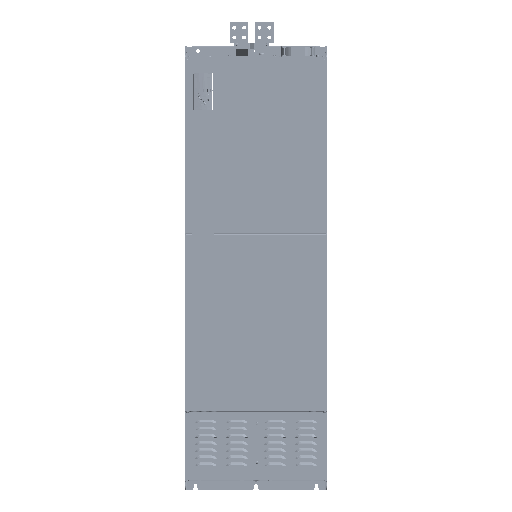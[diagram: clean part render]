
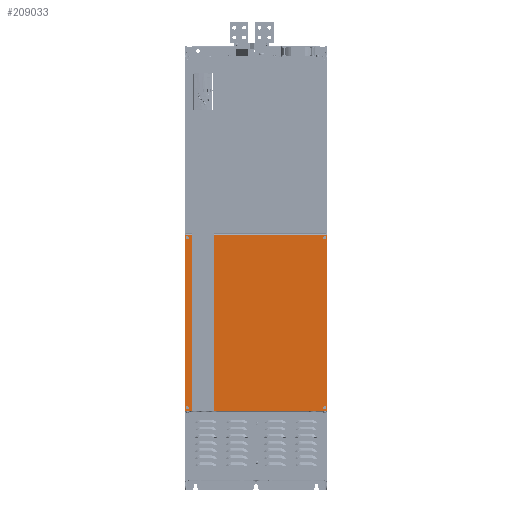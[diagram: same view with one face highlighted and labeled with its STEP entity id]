
A CAD part, top view. The second image highlights one B-rep face of the part: STEP entity #209033.
In plain terms, the highlighted planar face has unit normal (0, 0, 1).
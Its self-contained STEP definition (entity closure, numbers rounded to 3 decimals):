
#207611=CARTESIAN_POINT('',(250.35,626.75,0.));
#207612=DIRECTION('',(0.,0.,-1.));
#207613=DIRECTION('',(1.,0.,0.));
#207614=AXIS2_PLACEMENT_3D('',#207611,#207612,#207613);
#207619=DIRECTION('',(0.,1.,0.));
#207620=VECTOR('',#207619,626.75);
#207621=CARTESIAN_POINT('',(-250.6,0.,0.));
#207622=LINE('',#207621,#207620);
#207626=CARTESIAN_POINT('',(-250.35,626.75,0.));
#207627=DIRECTION('',(0.,0.,1.));
#207628=DIRECTION('',(-1.,0.,0.));
#207629=AXIS2_PLACEMENT_3D('',#207626,#207627,#207628);
#207634=CARTESIAN_POINT('',(244.6,616.5,0.));
#207635=DIRECTION('',(0.,0.,1.));
#207636=DIRECTION('',(-1.,0.,0.));
#207637=AXIS2_PLACEMENT_3D('',#207634,#207635,#207636);
#207642=CARTESIAN_POINT('',(244.6,616.5,0.));
#207643=DIRECTION('',(0.,0.,1.));
#207644=DIRECTION('',(1.,0.,0.));
#207645=AXIS2_PLACEMENT_3D('',#207642,#207643,#207644);
#207650=CARTESIAN_POINT('',(-244.6,616.5,0.));
#207651=DIRECTION('',(0.,0.,1.));
#207652=DIRECTION('',(-1.,0.,0.));
#207653=AXIS2_PLACEMENT_3D('',#207650,#207651,#207652);
#207658=CARTESIAN_POINT('',(-244.6,616.5,0.));
#207659=DIRECTION('',(0.,0.,1.));
#207660=DIRECTION('',(1.,0.,0.));
#207661=AXIS2_PLACEMENT_3D('',#207658,#207659,#207660);
#207666=CARTESIAN_POINT('',(-244.6,13.,0.));
#207667=DIRECTION('',(0.,0.,1.));
#207668=DIRECTION('',(-1.,0.,0.));
#207669=AXIS2_PLACEMENT_3D('',#207666,#207667,#207668);
#207674=CARTESIAN_POINT('',(-244.6,13.,0.));
#207675=DIRECTION('',(0.,0.,1.));
#207676=DIRECTION('',(1.,0.,0.));
#207677=AXIS2_PLACEMENT_3D('',#207674,#207675,#207676);
#207682=CARTESIAN_POINT('',(244.6,13.,0.));
#207683=DIRECTION('',(0.,0.,1.));
#207684=DIRECTION('',(-1.,0.,0.));
#207685=AXIS2_PLACEMENT_3D('',#207682,#207683,#207684);
#207690=CARTESIAN_POINT('',(244.6,13.,0.));
#207691=DIRECTION('',(0.,0.,1.));
#207692=DIRECTION('',(1.,0.,0.));
#207693=AXIS2_PLACEMENT_3D('',#207690,#207691,#207692);
#207698=DIRECTION('',(0.,-1.,0.));
#207699=VECTOR('',#207698,7.);
#207700=CARTESIAN_POINT('',(-228.85,27.,0.));
#207701=LINE('',#207700,#207699);
#207705=DIRECTION('',(1.,0.,0.));
#207706=VECTOR('',#207705,7.);
#207707=CARTESIAN_POINT('',(-228.85,20.,0.));
#207708=LINE('',#207707,#207706);
#207712=DIRECTION('',(0.,1.,0.));
#207713=VECTOR('',#207712,1.);
#207714=CARTESIAN_POINT('',(-221.85,20.,0.));
#207715=LINE('',#207714,#207713);
#207719=DIRECTION('',(-1.,0.,0.));
#207720=VECTOR('',#207719,6.);
#207721=CARTESIAN_POINT('',(-221.85,21.,0.));
#207722=LINE('',#207721,#207720);
#207726=DIRECTION('',(0.,1.,0.));
#207727=VECTOR('',#207726,6.);
#207728=CARTESIAN_POINT('',(-227.85,21.,0.));
#207729=LINE('',#207728,#207727);
#207733=DIRECTION('',(-1.,0.,0.));
#207734=VECTOR('',#207733,1.);
#207735=CARTESIAN_POINT('',(-227.85,27.,0.));
#207736=LINE('',#207735,#207734);
#207740=DIRECTION('',(-1.,0.,0.));
#207741=VECTOR('',#207740,7.);
#207742=CARTESIAN_POINT('',(-221.85,609.5,0.));
#207743=LINE('',#207742,#207741);
#207747=DIRECTION('',(0.,-1.,0.));
#207748=VECTOR('',#207747,7.);
#207749=CARTESIAN_POINT('',(-228.85,609.5,0.));
#207750=LINE('',#207749,#207748);
#207754=DIRECTION('',(1.,0.,0.));
#207755=VECTOR('',#207754,1.);
#207756=CARTESIAN_POINT('',(-228.85,602.5,0.));
#207757=LINE('',#207756,#207755);
#207761=DIRECTION('',(0.,1.,0.));
#207762=VECTOR('',#207761,6.);
#207763=CARTESIAN_POINT('',(-227.85,602.5,0.));
#207764=LINE('',#207763,#207762);
#207768=DIRECTION('',(1.,0.,0.));
#207769=VECTOR('',#207768,6.);
#207770=CARTESIAN_POINT('',(-227.85,608.5,0.));
#207771=LINE('',#207770,#207769);
#207775=DIRECTION('',(0.,1.,0.));
#207776=VECTOR('',#207775,1.);
#207777=CARTESIAN_POINT('',(-221.85,608.5,0.));
#207778=LINE('',#207777,#207776);
#207782=DIRECTION('',(-1.,0.,0.));
#207783=VECTOR('',#207782,500.7);
#207784=CARTESIAN_POINT('',(250.35,626.5,0.));
#207785=LINE('',#207784,#207783);
#208262=DIRECTION('',(0.,1.,0.));
#208263=VECTOR('',#208262,626.75);
#208264=CARTESIAN_POINT('',(250.6,0.,0.));
#208265=LINE('',#208264,#208263);
#208422=DIRECTION('',(1.,0.,0.));
#208423=VECTOR('',#208422,501.2);
#208424=CARTESIAN_POINT('',(-250.6,0.,0.));
#208425=LINE('',#208424,#208423);
#208668=CARTESIAN_POINT('',(-250.6,0.,0.));
#208670=VERTEX_POINT('',#208668);
#208671=CARTESIAN_POINT('',(250.6,0.,0.));
#208672=VERTEX_POINT('',#208671);
#208703=CARTESIAN_POINT('',(-228.85,27.,0.));
#208704=VERTEX_POINT('',#208703);
#208705=CARTESIAN_POINT('',(-228.85,20.,0.));
#208706=VERTEX_POINT('',#208705);
#208707=CARTESIAN_POINT('',(-221.85,20.,0.));
#208708=VERTEX_POINT('',#208707);
#208709=CARTESIAN_POINT('',(-221.85,21.,0.));
#208710=VERTEX_POINT('',#208709);
#208711=CARTESIAN_POINT('',(-227.85,21.,0.));
#208712=VERTEX_POINT('',#208711);
#208713=CARTESIAN_POINT('',(-227.85,27.,0.));
#208714=VERTEX_POINT('',#208713);
#208727=CARTESIAN_POINT('',(-221.85,609.5,0.));
#208728=VERTEX_POINT('',#208727);
#208729=CARTESIAN_POINT('',(-228.85,609.5,0.));
#208730=VERTEX_POINT('',#208729);
#208731=CARTESIAN_POINT('',(-228.85,602.5,0.));
#208732=VERTEX_POINT('',#208731);
#208733=CARTESIAN_POINT('',(-227.85,602.5,0.));
#208734=VERTEX_POINT('',#208733);
#208735=CARTESIAN_POINT('',(-227.85,608.5,0.));
#208736=VERTEX_POINT('',#208735);
#208737=CARTESIAN_POINT('',(-221.85,608.5,0.));
#208738=VERTEX_POINT('',#208737);
#208739=CARTESIAN_POINT('',(242.3,616.5,0.));
#208740=CARTESIAN_POINT('',(246.9,616.5,0.));
#208741=VERTEX_POINT('',#208739);
#208742=VERTEX_POINT('',#208740);
#208743=CARTESIAN_POINT('',(-246.9,616.5,0.));
#208744=CARTESIAN_POINT('',(-242.3,616.5,0.));
#208745=VERTEX_POINT('',#208743);
#208746=VERTEX_POINT('',#208744);
#208747=CARTESIAN_POINT('',(-246.9,13.,0.));
#208748=CARTESIAN_POINT('',(-242.3,13.,0.));
#208749=VERTEX_POINT('',#208747);
#208750=VERTEX_POINT('',#208748);
#208751=CARTESIAN_POINT('',(242.3,13.,0.));
#208752=CARTESIAN_POINT('',(246.9,13.,0.));
#208753=VERTEX_POINT('',#208751);
#208754=VERTEX_POINT('',#208752);
#208779=CARTESIAN_POINT('',(-250.6,626.75,0.));
#208780=VERTEX_POINT('',#208779);
#208783=CARTESIAN_POINT('',(250.6,626.75,0.));
#208785=VERTEX_POINT('',#208783);
#208789=CARTESIAN_POINT('',(250.35,626.5,0.));
#208790=VERTEX_POINT('',#208789);
#208793=CARTESIAN_POINT('',(-250.35,626.5,0.));
#208794=VERTEX_POINT('',#208793);
#208963=CARTESIAN_POINT('',(-250.6,0.,0.));
#208964=DIRECTION('',(0.,0.,1.));
#208965=DIRECTION('',(1.,0.,0.));
#208966=AXIS2_PLACEMENT_3D('',#208963,#208964,#208965);
#208967=PLANE('',#208966);
#208969=ORIENTED_EDGE('',*,*,#208968,.F.);
#208971=ORIENTED_EDGE('',*,*,#208970,.F.);
#208973=ORIENTED_EDGE('',*,*,#208972,.F.);
#208975=ORIENTED_EDGE('',*,*,#208974,.F.);
#208976=ORIENTED_EDGE('',*,*,#208952,.T.);
#208978=ORIENTED_EDGE('',*,*,#208977,.T.);
#208979=EDGE_LOOP('',(#208969,#208971,#208973,#208975,#208976,#208978));
#208980=FACE_OUTER_BOUND('',#208979,.F.);
#208982=ORIENTED_EDGE('',*,*,#208981,.T.);
#208984=ORIENTED_EDGE('',*,*,#208983,.T.);
#208985=EDGE_LOOP('',(#208982,#208984));
#208986=FACE_BOUND('',#208985,.F.);
#208988=ORIENTED_EDGE('',*,*,#208987,.T.);
#208990=ORIENTED_EDGE('',*,*,#208989,.T.);
#208991=EDGE_LOOP('',(#208988,#208990));
#208992=FACE_BOUND('',#208991,.F.);
#208994=ORIENTED_EDGE('',*,*,#208993,.T.);
#208996=ORIENTED_EDGE('',*,*,#208995,.T.);
#208997=EDGE_LOOP('',(#208994,#208996));
#208998=FACE_BOUND('',#208997,.F.);
#209000=ORIENTED_EDGE('',*,*,#208999,.T.);
#209002=ORIENTED_EDGE('',*,*,#209001,.T.);
#209003=EDGE_LOOP('',(#209000,#209002));
#209004=FACE_BOUND('',#209003,.F.);
#209006=ORIENTED_EDGE('',*,*,#209005,.T.);
#209008=ORIENTED_EDGE('',*,*,#209007,.T.);
#209010=ORIENTED_EDGE('',*,*,#209009,.T.);
#209012=ORIENTED_EDGE('',*,*,#209011,.T.);
#209014=ORIENTED_EDGE('',*,*,#209013,.T.);
#209016=ORIENTED_EDGE('',*,*,#209015,.T.);
#209017=EDGE_LOOP('',(#209006,#209008,#209010,#209012,#209014,#209016));
#209018=FACE_BOUND('',#209017,.F.);
#209020=ORIENTED_EDGE('',*,*,#209019,.T.);
#209022=ORIENTED_EDGE('',*,*,#209021,.T.);
#209024=ORIENTED_EDGE('',*,*,#209023,.T.);
#209026=ORIENTED_EDGE('',*,*,#209025,.T.);
#209028=ORIENTED_EDGE('',*,*,#209027,.T.);
#209030=ORIENTED_EDGE('',*,*,#209029,.T.);
#209031=EDGE_LOOP('',(#209020,#209022,#209024,#209026,#209028,#209030));
#209032=FACE_BOUND('',#209031,.F.);
#209033=ADVANCED_FACE('',(#208980,#208986,#208992,#208998,#209004,#209018,
#209032),#208967,.T.);
#207615=CIRCLE('',#207614,0.25);
#207630=CIRCLE('',#207629,0.25);
#207638=CIRCLE('',#207637,2.3);
#207646=CIRCLE('',#207645,2.3);
#207654=CIRCLE('',#207653,2.3);
#207662=CIRCLE('',#207661,2.3);
#207670=CIRCLE('',#207669,2.3);
#207678=CIRCLE('',#207677,2.3);
#207686=CIRCLE('',#207685,2.3);
#207694=CIRCLE('',#207693,2.3);
#208952=EDGE_CURVE('',#208670,#208780,#207622,.T.);
#208968=EDGE_CURVE('',#208790,#208794,#207785,.T.);
#208970=EDGE_CURVE('',#208785,#208790,#207615,.T.);
#208972=EDGE_CURVE('',#208672,#208785,#208265,.T.);
#208974=EDGE_CURVE('',#208670,#208672,#208425,.T.);
#208977=EDGE_CURVE('',#208780,#208794,#207630,.T.);
#208981=EDGE_CURVE('',#208741,#208742,#207638,.T.);
#208983=EDGE_CURVE('',#208742,#208741,#207646,.T.);
#208987=EDGE_CURVE('',#208745,#208746,#207654,.T.);
#208989=EDGE_CURVE('',#208746,#208745,#207662,.T.);
#208993=EDGE_CURVE('',#208749,#208750,#207670,.T.);
#208995=EDGE_CURVE('',#208750,#208749,#207678,.T.);
#208999=EDGE_CURVE('',#208753,#208754,#207686,.T.);
#209001=EDGE_CURVE('',#208754,#208753,#207694,.T.);
#209005=EDGE_CURVE('',#208704,#208706,#207701,.T.);
#209007=EDGE_CURVE('',#208706,#208708,#207708,.T.);
#209009=EDGE_CURVE('',#208708,#208710,#207715,.T.);
#209011=EDGE_CURVE('',#208710,#208712,#207722,.T.);
#209013=EDGE_CURVE('',#208712,#208714,#207729,.T.);
#209015=EDGE_CURVE('',#208714,#208704,#207736,.T.);
#209019=EDGE_CURVE('',#208728,#208730,#207743,.T.);
#209021=EDGE_CURVE('',#208730,#208732,#207750,.T.);
#209023=EDGE_CURVE('',#208732,#208734,#207757,.T.);
#209025=EDGE_CURVE('',#208734,#208736,#207764,.T.);
#209027=EDGE_CURVE('',#208736,#208738,#207771,.T.);
#209029=EDGE_CURVE('',#208738,#208728,#207778,.T.);
